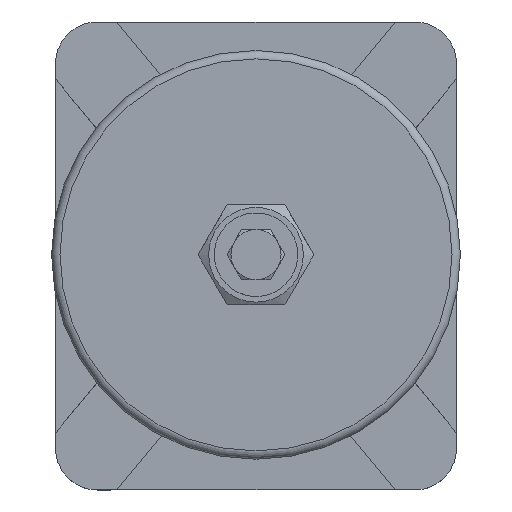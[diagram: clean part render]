
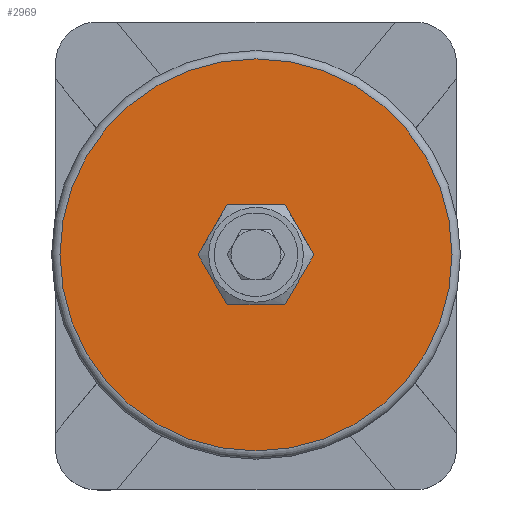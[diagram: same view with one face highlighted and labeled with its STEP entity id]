
A CAD part, top view. The second image highlights one B-rep face of the part: STEP entity #2969.
In plain terms, the highlighted planar face has unit normal (0, 0, 1).
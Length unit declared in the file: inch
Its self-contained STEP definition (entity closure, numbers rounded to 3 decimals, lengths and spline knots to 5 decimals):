
#140=FACE_BOUND('',#513,.T.);
#197=CIRCLE('',#3174,2.93218);
#199=CIRCLE('',#3178,0.4375);
#328=FACE_OUTER_BOUND('',#512,.T.);
#512=EDGE_LOOP('',(#2046));
#513=EDGE_LOOP('',(#2047));
#1219=VERTEX_POINT('',#4396);
#1221=VERTEX_POINT('',#4402);
#1534=EDGE_CURVE('',#1219,#1219,#197,.T.);
#1536=EDGE_CURVE('',#1221,#1221,#199,.T.);
#2046=ORIENTED_EDGE('',*,*,#1534,.F.);
#2047=ORIENTED_EDGE('',*,*,#1536,.F.);
#2660=PLANE('',#3177);
#2969=ADVANCED_FACE('',(#328,#140),#2660,.T.);
#3174=AXIS2_PLACEMENT_3D('',#4397,#3571,#3572);
#3177=AXIS2_PLACEMENT_3D('',#4401,#3577,#3578);
#3178=AXIS2_PLACEMENT_3D('',#4403,#3579,#3580);
#3571=DIRECTION('center_axis',(0.,0.,
-1.));
#3572=DIRECTION('ref_axis',(1.,0.,0.));
#3577=DIRECTION('center_axis',(0.,0.,
1.));
#3578=DIRECTION('ref_axis',(-1.,0.,0.));
#3579=DIRECTION('center_axis',(0.,0.,
1.));
#3580=DIRECTION('ref_axis',(-1.,0.,0.));
#4396=CARTESIAN_POINT('',(-2.93218,0.,9.9375));
#4397=CARTESIAN_POINT('Origin',(0.,0.,
9.9375));
#4401=CARTESIAN_POINT('Origin',(-1.75,0.,9.9375));
#4402=CARTESIAN_POINT('',(-0.4375,0.,9.9375));
#4403=CARTESIAN_POINT('Origin',(0.,0.,
9.9375));
